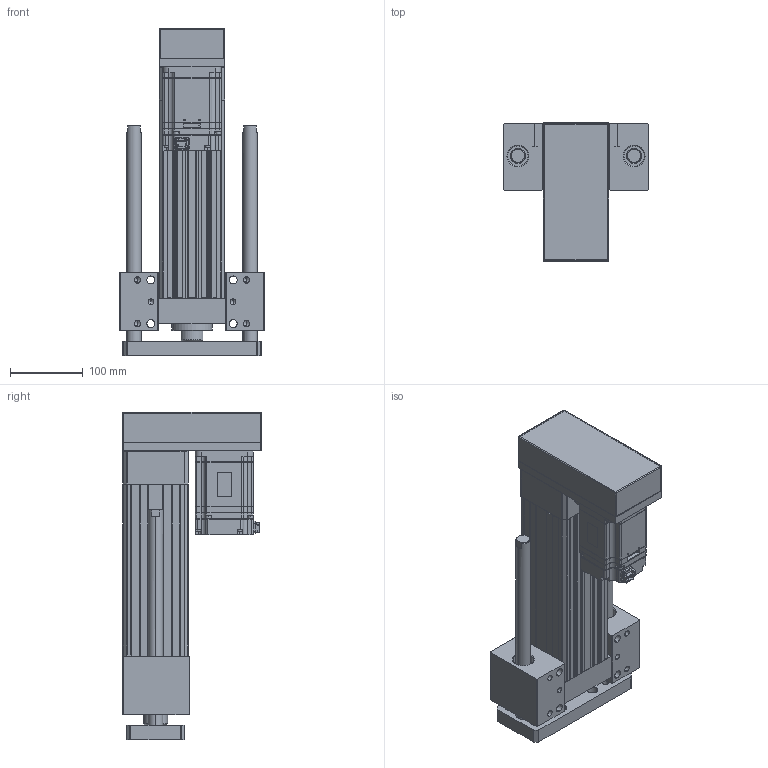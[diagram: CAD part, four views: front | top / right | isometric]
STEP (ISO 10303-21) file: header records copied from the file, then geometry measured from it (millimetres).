
FILE_DESCRIPTION (( 'STEP AP203' ), '1' );
FILE_NAME ('ANS090R-HP150-05(10)(20)-W75.STEP', '2019-03-02T09:33:07', ( 'user' ), ( '' ), 'SwSTEP 2.0', 'SolidWorks 2013', '' );
FILE_SCHEMA (( 'CONFIG_CONTROL_DESIGN' ));
Length unit declared in the file: millimetre
Products named in the file (4): ANS090R HP150 VER2; SGMJV_08A_A21; ANS090 ROD ST150-H; ANS090R-HP150-05(10)(20)-W75
Assembly tree (3 placements, depth 2):
  ANS090R-HP150-05(10)(20)-W75
    ANS090R HP150 VER2
    SGMJV_08A_A21
    ANS090 ROD ST150-H
Bounding box: 200 x 190 x 450 mm (x, y, z)
Volume: 3640349.4 mm3; surface area: 630182.6 mm2
Topology: 3 solids, 3 shells, 1228 faces, 3234 edges, 2090 vertices
Faces by surface type: plane 688, cylinder 434, cone 94, sphere 8, bspline 4
Entity records: 38470 total; most frequent: CARTESIAN_POINT 7180, DIRECTION 6468, ORIENTED_EDGE 6420, EDGE_CURVE 3210, LINE 2168, VECTOR 2168, AXIS2_PLACEMENT_3D 2150, VERTEX_POINT 2090
